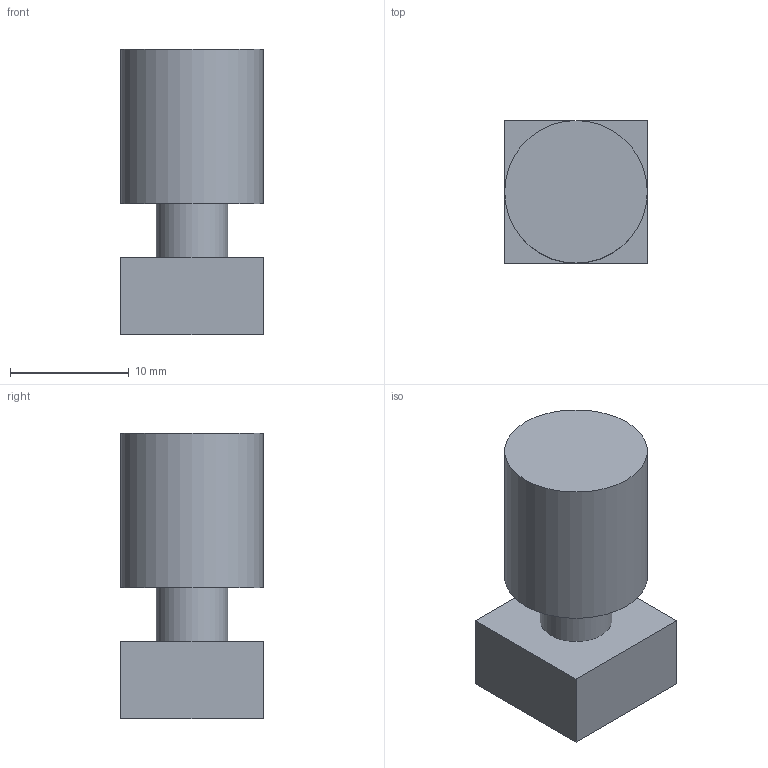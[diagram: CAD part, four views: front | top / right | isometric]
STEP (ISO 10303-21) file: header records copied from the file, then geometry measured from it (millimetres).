
FILE_DESCRIPTION(('Open CASCADE Model'),'2;1');
FILE_NAME('Open CASCADE Shape Model','2026-10-01T17:03:59',('Author'),( 'Open CASCADE'),'Open CASCADE STEP processor 7.9','Open CASCADE 7.9' ,'Unknown');
FILE_SCHEMA(('AUTOMOTIVE_DESIGN { 1 0 10303 214 1 1 1 1 }'));
Length unit declared in the file: millimetre
Products named in the file (4): Open CASCADE STEP translator 7.9 3; Open CASCADE STEP translator 7.9 3.1; Open CASCADE STEP translator 7.9 3.2; Open CASCADE STEP translator 7.9 3.3
Assembly tree (3 placements, depth 2):
  Open CASCADE STEP translator 7.9 3
    Open CASCADE STEP translator 7.9 3.1
    Open CASCADE STEP translator 7.9 3.2
    Open CASCADE STEP translator 7.9 3.3
Bounding box: 12 x 12 x 24 mm (x, y, z)
Volume: 2789.4 mm3; surface area: 1628.2 mm2
Topology: 3 solids, 3 shells, 12 faces, 18 edges, 12 vertices
Faces by surface type: plane 10, cylinder 2
Full cylindrical faces by diameter (mm): 6 x1, 12 x1
Entity records: 560 total; most frequent: DIRECTION 90, CARTESIAN_POINT 82, LINE 46, VECTOR 46, ORIENTED_EDGE 36, PCURVE 36, DEFINITIONAL_REPRESENTATION 36, AXIS2_PLACEMENT_3D 20
